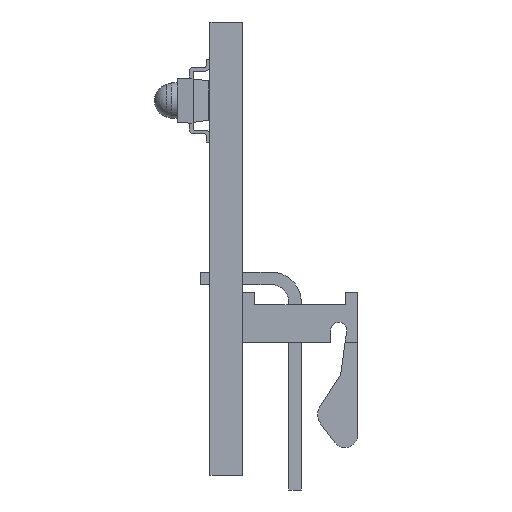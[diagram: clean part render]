
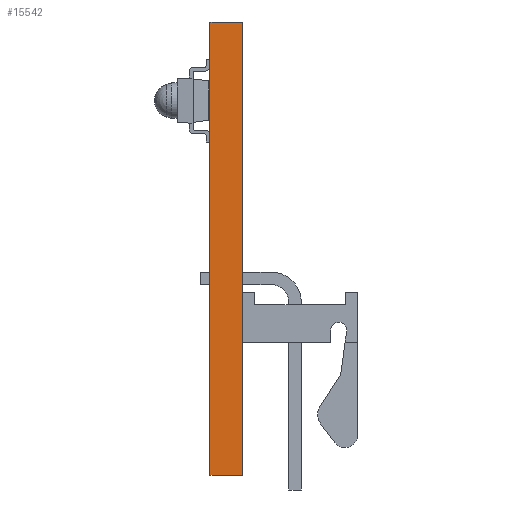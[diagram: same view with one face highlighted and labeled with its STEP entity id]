
A CAD part, left-side view. The second image highlights one B-rep face of the part: STEP entity #15542.
In plain terms, the highlighted planar face has unit normal (-1, 0, 0).
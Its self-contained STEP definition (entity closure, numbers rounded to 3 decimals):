
#801=FACE_OUTER_BOUND('',#1710,.T.);
#1710=EDGE_LOOP('',(#12174,#12175,#12176,#12177));
#2580=LINE('',#21403,#4395);
#3548=LINE('',#23617,#5363);
#3551=LINE('',#23621,#5366);
#3552=LINE('',#23623,#5367);
#4395=VECTOR('',#17380,10.);
#5363=VECTOR('',#19344,10.);
#5366=VECTOR('',#19349,10.);
#5367=VECTOR('',#19352,10.);
#6161=VERTEX_POINT('',#21400);
#6162=VERTEX_POINT('',#21402);
#6909=VERTEX_POINT('',#23614);
#6910=VERTEX_POINT('',#23616);
#7650=EDGE_CURVE('',#6161,#6162,#2580,.T.);
#8746=EDGE_CURVE('',#6909,#6910,#3548,.T.);
#8749=EDGE_CURVE('',#6909,#6162,#3551,.T.);
#8750=EDGE_CURVE('',#6910,#6161,#3552,.T.);
#12174=ORIENTED_EDGE('',*,*,#8749,.T.);
#12175=ORIENTED_EDGE('',*,*,#7650,.F.);
#12176=ORIENTED_EDGE('',*,*,#8750,.F.);
#12177=ORIENTED_EDGE('',*,*,#8746,.F.);
#14131=PLANE('',#16476);
#15542=ADVANCED_FACE('',(#801),#14131,.T.);
#16476=AXIS2_PLACEMENT_3D('',#23622,#19350,#19351);
#17380=DIRECTION('',(0.,0.,1.));
#19344=DIRECTION('',(0.,0.,-1.));
#19349=DIRECTION('',(0.,1.,0.));
#19350=DIRECTION('center_axis',(-1.,0.,0.));
#19351=DIRECTION('ref_axis',(0.,0.,1.));
#19352=DIRECTION('',(0.,1.,0.));
#21400=CARTESIAN_POINT('',(0.,0.825,-22.987));
#21402=CARTESIAN_POINT('',(0.,0.825,0.));
#21403=CARTESIAN_POINT('',(0.,0.825,-22.987));
#23614=CARTESIAN_POINT('',(0.,-0.825,0.));
#23616=CARTESIAN_POINT('',(0.,-0.825,-22.987));
#23617=CARTESIAN_POINT('',(0.,-0.825,-22.987));
#23621=CARTESIAN_POINT('',(0.,0.,0.));
#23622=CARTESIAN_POINT('Origin',(0.,0.,-22.987));
#23623=CARTESIAN_POINT('',(0.,0.,-22.987));
